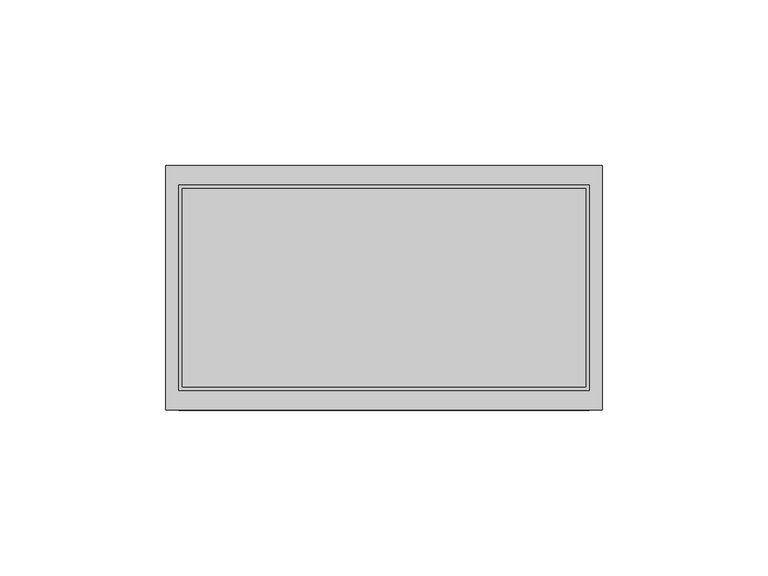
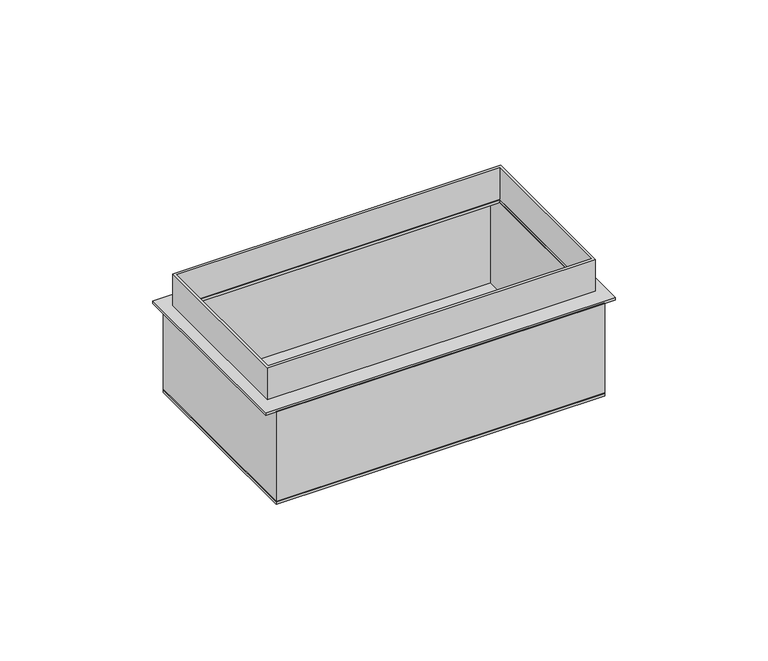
"""IFC4 building model written with IfcOpenShell, lengths in millimetres: proxy geometry, 00-Scatola da incasso : Scatola 4 moduli."""

from ifc_helpers import new_model, si_unit, frame, origin, place, context, project, spatial, polyline, outline, extrude, source, transform, mapped, element, save


def electrical_fixtures_931b6201(model_context):
    return source(origin(), model_context, "Body", "SweptSolid", [
        extrude(outline(polyline([(62.0, -37.0), (-62.0, -37.0), (-62.0, 37.0), (62.0, 37.0), (62.0, -37.0)])), frame((0.0, 0.0, -51.0), z_axis=(0.0, 0.0, 1.0), x_axis=(1.0, 0.0, 0.0)), (0.0, 0.0, 1.0), 1.0),
        extrude(outline(polyline([(62.0, -37.0), (-62.0, -37.0), (-62.0, 37.0), (62.0, 37.0), (62.0, -37.0)]), holes=[polyline([(-61.0, 36.0), (-61.0, -36.0), (61.0, -36.0), (61.0, 36.0), (-61.0, 36.0)])]), frame((0.0, 0.0, -50.0), z_axis=(0.0, 0.0, 1.0), x_axis=(1.0, 0.0, 0.0)), (0.0, 0.0, 1.0), 36.0),
        extrude(outline(polyline([(66.0, -37.0), (-66.0, -37.0), (-66.0, 37.0), (66.0, 37.0), (66.0, -37.0)]), holes=[polyline([(61.0, -30.0), (61.0, 30.0), (-61.0, 30.0), (-61.0, -30.0), (61.0, -30.0)])]), frame((0.0, 0.0, -14.0), z_axis=(0.0, 0.0, 1.0), x_axis=(1.0, 0.0, 0.0)), (0.0, 0.0, 1.0), 1.0),
        extrude(outline(polyline([(62.0, -31.0), (-62.0, -31.0), (-62.0, 31.0), (62.0, 31.0), (62.0, -31.0)]), holes=[polyline([(-61.0, 30.0), (-61.0, -30.0), (61.0, -30.0), (61.0, 30.0), (-61.0, 30.0)])]), frame((0.0, 0.0, -13.0), z_axis=(0.0, 0.0, 1.0), x_axis=(1.0, 0.0, 0.0)), (0.0, 0.0, 1.0), 13.0),
    ])


if __name__ == "__main__":
    model = new_model("IFC4")
    model_context = context("Model", 3, world=origin())
    ifc_project = project(units=[si_unit("LENGTHUNIT", "METRE", prefix="MILLI")], contexts=[model_context])
    site = spatial("IfcSite", under=ifc_project)
    building = spatial("IfcBuilding", under=site)
    placement = place(None, origin())
    electrical_fixtures_shape = electrical_fixtures_931b6201(model_context)
    element("IfcBuildingElementProxy", 1, Name="00-Scatola da incasso : Scatola 4 moduli", ObjectType="00-Scatola da incasso : Scatola 4 moduli", at=placement, inside=building, context=model_context, shape_type="MappedRepresentation", body=[
        mapped(electrical_fixtures_shape, transform((0.0, 0.0, 0.0), x_axis=(1.0, 0.0, 0.0), y_axis=(0.0, 1.0, 0.0), z_axis=(0.0, 0.0, 1.0))),
    ])
    save(model, "model.ifc")
